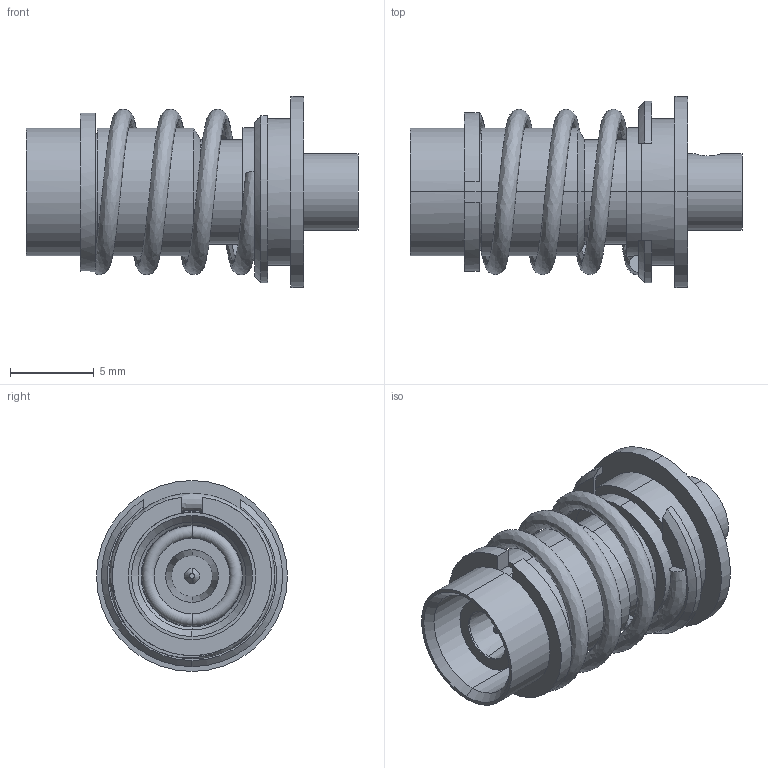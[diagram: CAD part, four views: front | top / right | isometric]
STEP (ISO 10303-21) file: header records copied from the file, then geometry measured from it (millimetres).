
FILE_DESCRIPTION (( 'STEP AP214' ), '1' );
FILE_NAME ('SF8802-6007.STEP', '2016-08-24T17:44:24', ( '' ), ( '' ), 'SwSTEP 2.0', 'SolidWorks 2015', '' );
FILE_SCHEMA (( 'AUTOMOTIVE_DESIGN' ));
Length unit declared in the file: inch
Products named in the file (2): SF8802-6007
Bounding box: 19.86 x 11.43 x 11.43 mm (x, y, z)
Volume: 733.5 mm3; surface area: 1541.1 mm2
Topology: 2 solids, 2 shells, 98 faces, 223 edges, 140 vertices
Faces by surface type: cylinder 49, plane 28, cone 16, torus 4, bspline 1
Entity records: 4692 total; most frequent: CARTESIAN_POINT 1167, DIRECTION 507, ORIENTED_EDGE 446, EDGE_CURVE 223, AXIS2_PLACEMENT_3D 211, VERTEX_POINT 140, EDGE_LOOP 115, CIRCLE 112
